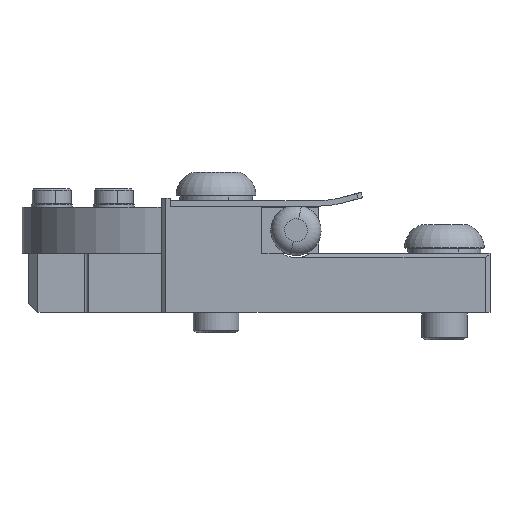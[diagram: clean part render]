
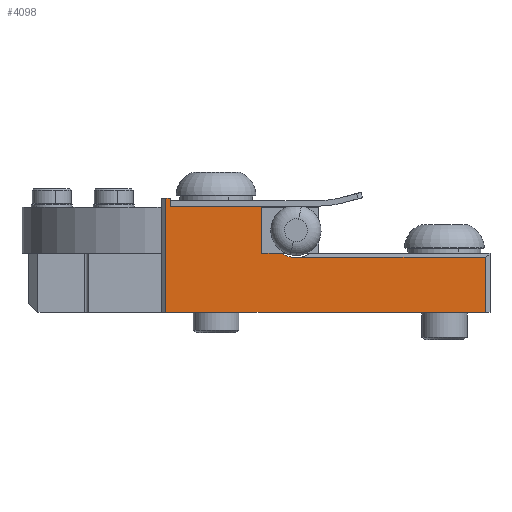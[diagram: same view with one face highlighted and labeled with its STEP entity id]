
A CAD part, front view. The second image highlights one B-rep face of the part: STEP entity #4098.
In plain terms, the highlighted planar face has unit normal (0, -1, 0) as drawn and (0, 1, 0) by its records, which use the part's own axes.
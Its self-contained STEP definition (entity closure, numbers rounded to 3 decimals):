
#52 = EDGE_CURVE ( 'NONE', #6047, #7361, #1501, .T. ) ;
#212 = EDGE_CURVE ( 'NONE', #2279, #836, #5106, .T. ) ;
#478 = DIRECTION ( 'NONE',  ( -1., 0., 0. ) ) ;
#584 = VECTOR ( 'NONE', #3711, 1000. ) ;
#627 = LINE ( 'NONE', #7388, #6987 ) ;
#724 = DIRECTION ( 'NONE',  ( -1., 0., 0. ) ) ;
#782 = CARTESIAN_POINT ( 'NONE',  ( 11., 10., 25. ) ) ;
#836 = VERTEX_POINT ( 'NONE', #5367 ) ;
#991 = CARTESIAN_POINT ( 'NONE',  ( -10., 10., 23.3 ) ) ;
#1117 = VERTEX_POINT ( 'NONE', #991 ) ;
#1246 = VECTOR ( 'NONE', #2341, 1000. ) ;
#1273 = LINE ( 'NONE', #7281, #5315 ) ;
#1501 = LINE ( 'NONE', #1542, #4744 ) ;
#1542 = CARTESIAN_POINT ( 'NONE',  ( 11., 10., 13. ) ) ;
#1544 = CARTESIAN_POINT ( 'NONE',  ( 12., 10., 13. ) ) ;
#1563 = CARTESIAN_POINT ( 'NONE',  ( -10., 10., 23.3 ) ) ;
#1642 = EDGE_CURVE ( 'NONE', #6047, #1894, #1273, .T. ) ;
#1750 = ORIENTED_EDGE ( 'NONE', *, *, #7586, .T. ) ;
#1850 = PLANE ( 'NONE',  #5021 ) ;
#1894 = VERTEX_POINT ( 'NONE', #2169 ) ;
#2067 = DIRECTION ( 'NONE',  ( 0., 0., -1. ) ) ;
#2070 = ORIENTED_EDGE ( 'NONE', *, *, #4615, .F. ) ;
#2169 = CARTESIAN_POINT ( 'NONE',  ( 10., 10., 25. ) ) ;
#2173 = CARTESIAN_POINT ( 'NONE',  ( 12., 10., 13. ) ) ;
#2279 = VERTEX_POINT ( 'NONE', #6397 ) ;
#2341 = DIRECTION ( 'NONE',  ( -1., 0., 0. ) ) ;
#2399 = CARTESIAN_POINT ( 'NONE',  ( -59., 10., 13. ) ) ;
#2561 = EDGE_CURVE ( 'NONE', #1117, #2781, #7616, .T. ) ;
#2739 = VECTOR ( 'NONE', #4296, 1000. ) ;
#2757 = LINE ( 'NONE', #4732, #3077 ) ;
#2781 = VERTEX_POINT ( 'NONE', #3005 ) ;
#2877 = DIRECTION ( 'NONE',  ( 0., 0., -1. ) ) ;
#2903 = EDGE_CURVE ( 'NONE', #1894, #5935, #627, .T. ) ;
#3005 = CARTESIAN_POINT ( 'NONE',  ( -10., 10., 13. ) ) ;
#3077 = VECTOR ( 'NONE', #724, 1000. ) ;
#3084 = DIRECTION ( 'NONE',  ( -1., 0., 0. ) ) ;
#3277 = AXIS2_PLACEMENT_3D ( 'NONE', #5732, #3666, #3084 ) ;
#3559 = EDGE_CURVE ( 'NONE', #5207, #8099, #7001, .T. ) ;
#3624 = CARTESIAN_POINT ( 'NONE',  ( -20.662, 10., 12.134 ) ) ;
#3666 = DIRECTION ( 'NONE',  ( 0., 1., 0. ) ) ;
#3711 = DIRECTION ( 'NONE',  ( 0., 0., 1. ) ) ;
#4098 = ADVANCED_FACE ( 'NONE', ( #7972 ), #1850, .F. ) ;
#4294 = DIRECTION ( 'NONE',  ( 0., 0., -1. ) ) ;
#4296 = DIRECTION ( 'NONE',  ( 1., 0., 0. ) ) ;
#4394 = ORIENTED_EDGE ( 'NONE', *, *, #1642, .F. ) ;
#4531 = ORIENTED_EDGE ( 'NONE', *, *, #2561, .F. ) ;
#4573 = EDGE_CURVE ( 'NONE', #836, #8099, #4934, .T. ) ;
#4615 = EDGE_CURVE ( 'NONE', #2781, #5207, #6848, .T. ) ;
#4654 = CARTESIAN_POINT ( 'NONE',  ( 10., 10., 23.3 ) ) ;
#4732 = CARTESIAN_POINT ( 'NONE',  ( 12., 10., 0. ) ) ;
#4744 = VECTOR ( 'NONE', #4294, 1000. ) ;
#4934 = LINE ( 'NONE', #3624, #2739 ) ;
#4973 = DIRECTION ( 'NONE',  ( -1., 0., 0. ) ) ;
#5021 = AXIS2_PLACEMENT_3D ( 'NONE', #2173, #8155, #8770 ) ;
#5096 = CARTESIAN_POINT ( 'NONE',  ( -14.338, 10., 13. ) ) ;
#5106 = LINE ( 'NONE', #2399, #584 ) ;
#5207 = VERTEX_POINT ( 'NONE', #5096 ) ;
#5315 = VECTOR ( 'NONE', #478, 1000. ) ;
#5367 = CARTESIAN_POINT ( 'NONE',  ( -59., 10., 12.134 ) ) ;
#5467 = VECTOR ( 'NONE', #4973, 1000. ) ;
#5475 = ORIENTED_EDGE ( 'NONE', *, *, #4573, .T. ) ;
#5500 = ORIENTED_EDGE ( 'NONE', *, *, #212, .T. ) ;
#5550 = EDGE_CURVE ( 'NONE', #5935, #1117, #6338, .T. ) ;
#5704 = EDGE_LOOP ( 'NONE', ( #5500, #5475, #6016, #2070, #4531, #6942, #7778, #4394, #8513, #1750 ) ) ;
#5732 = CARTESIAN_POINT ( 'NONE',  ( -17.5, 10., 17.5 ) ) ;
#5794 = CARTESIAN_POINT ( 'NONE',  ( -18.707, 10., 12.134 ) ) ;
#5935 = VERTEX_POINT ( 'NONE', #4654 ) ;
#6016 = ORIENTED_EDGE ( 'NONE', *, *, #3559, .F. ) ;
#6047 = VERTEX_POINT ( 'NONE', #782 ) ;
#6338 = LINE ( 'NONE', #8417, #1246 ) ;
#6397 = CARTESIAN_POINT ( 'NONE',  ( -59., 10., 0. ) ) ;
#6425 = VECTOR ( 'NONE', #2877, 1000. ) ;
#6848 = LINE ( 'NONE', #1544, #5467 ) ;
#6942 = ORIENTED_EDGE ( 'NONE', *, *, #5550, .F. ) ;
#6987 = VECTOR ( 'NONE', #2067, 1000. ) ;
#7001 = CIRCLE ( 'NONE', #3277, 5.5 ) ;
#7281 = CARTESIAN_POINT ( 'NONE',  ( 11., 10., 25. ) ) ;
#7361 = VERTEX_POINT ( 'NONE', #7803 ) ;
#7388 = CARTESIAN_POINT ( 'NONE',  ( 10., 10., 25. ) ) ;
#7586 = EDGE_CURVE ( 'NONE', #7361, #2279, #2757, .T. ) ;
#7616 = LINE ( 'NONE', #1563, #6425 ) ;
#7778 = ORIENTED_EDGE ( 'NONE', *, *, #2903, .F. ) ;
#7803 = CARTESIAN_POINT ( 'NONE',  ( 11., 10., 0. ) ) ;
#7972 = FACE_OUTER_BOUND ( 'NONE', #5704, .T. ) ;
#8099 = VERTEX_POINT ( 'NONE', #5794 ) ;
#8155 = DIRECTION ( 'NONE',  ( 0., -1., 0. ) ) ;
#8417 = CARTESIAN_POINT ( 'NONE',  ( 11., 10., 23.3 ) ) ;
#8513 = ORIENTED_EDGE ( 'NONE', *, *, #52, .T. ) ;
#8770 = DIRECTION ( 'NONE',  ( 0., 0., -1. ) ) ;
